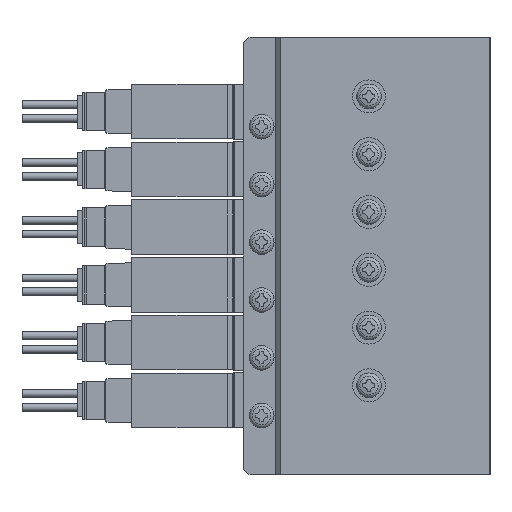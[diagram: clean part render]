
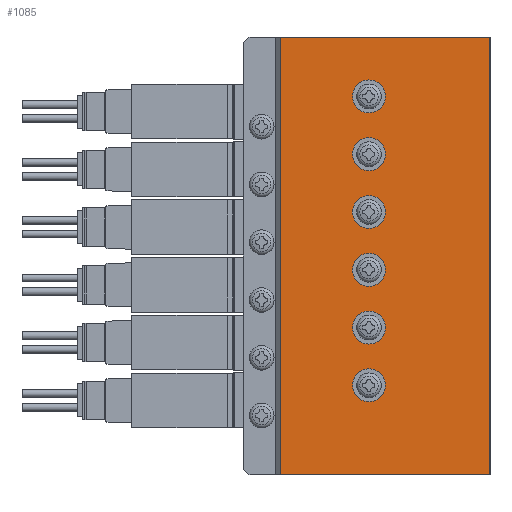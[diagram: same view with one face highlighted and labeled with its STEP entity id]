
A CAD part, left-side view. The second image highlights one B-rep face of the part: STEP entity #1085.
In plain terms, the highlighted planar face has unit normal (-1, 0, 0) as drawn and (1, 0, 0) by its records, which use the part's own axes.
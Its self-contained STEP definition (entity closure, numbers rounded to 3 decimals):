
#1085=ADVANCED_FACE('',(#2491,#2492,#2493,#2494,#2495,#2496,#2497),#2498,.F.);
#2491=FACE_OUTER_BOUND('',#3948,.T.);
#2492=FACE_BOUND('',#3949,.T.);
#2493=FACE_BOUND('',#3950,.T.);
#2494=FACE_BOUND('',#3951,.T.);
#2495=FACE_BOUND('',#3952,.T.);
#2496=FACE_BOUND('',#3953,.T.);
#2497=FACE_BOUND('',#3954,.T.);
#2498=PLANE('',#3955);
#3948=EDGE_LOOP('',(#8481,#8482,#8483,#8484));
#3949=EDGE_LOOP('',(#8485));
#3950=EDGE_LOOP('',(#8486));
#3951=EDGE_LOOP('',(#8487));
#3952=EDGE_LOOP('',(#8488));
#3953=EDGE_LOOP('',(#8489));
#3954=EDGE_LOOP('',(#8490));
#3955=AXIS2_PLACEMENT_3D('',#8491,#8492,#8493);
#8481=ORIENTED_EDGE('',*,*,#9934,.T.);
#8482=ORIENTED_EDGE('',*,*,#10014,.F.);
#8483=ORIENTED_EDGE('',*,*,#9944,.F.);
#8484=ORIENTED_EDGE('',*,*,#9980,.T.);
#8485=ORIENTED_EDGE('',*,*,#9884,.F.);
#8486=ORIENTED_EDGE('',*,*,#9639,.F.);
#8487=ORIENTED_EDGE('',*,*,#10117,.F.);
#8488=ORIENTED_EDGE('',*,*,#10102,.F.);
#8489=ORIENTED_EDGE('',*,*,#10086,.F.);
#8490=ORIENTED_EDGE('',*,*,#10112,.F.);
#8491=CARTESIAN_POINT('',(19.0,0.0,39.75));
#8492=DIRECTION('',(-1.0,0.0,0.0));
#8493=DIRECTION('',(0.0,0.0,1.0));
#9639=EDGE_CURVE('',#11734,#11734,#11735,.T.);
#9884=EDGE_CURVE('',#12177,#12177,#12178,.T.);
#9934=EDGE_CURVE('',#12261,#12259,#12262,.T.);
#9944=EDGE_CURVE('',#12274,#12276,#12277,.T.);
#9980=EDGE_CURVE('',#12274,#12261,#12333,.T.);
#10014=EDGE_CURVE('',#12276,#12259,#12384,.T.);
#10086=EDGE_CURVE('',#12486,#12486,#12487,.T.);
#10102=EDGE_CURVE('',#12509,#12509,#12510,.T.);
#10112=EDGE_CURVE('',#12524,#12524,#12525,.T.);
#10117=EDGE_CURVE('',#12532,#12532,#12533,.T.);
#11734=VERTEX_POINT('',#15389);
#11735=CIRCLE('',#15390,3.0);
#12177=VERTEX_POINT('',#16697);
#12178=CIRCLE('',#16698,3.0);
#12259=VERTEX_POINT('',#16806);
#12261=VERTEX_POINT('',#16809);
#12262=LINE('',#16810,#16811);
#12274=VERTEX_POINT('',#16830);
#12276=VERTEX_POINT('',#16833);
#12277=LINE('',#16834,#16835);
#12333=LINE('',#16913,#16914);
#12384=LINE('',#16978,#16979);
#12486=VERTEX_POINT('',#17173);
#12487=CIRCLE('',#17174,3.0);
#12509=VERTEX_POINT('',#17206);
#12510=CIRCLE('',#17207,3.0);
#12524=VERTEX_POINT('',#17238);
#12525=CIRCLE('',#17239,3.0);
#12532=VERTEX_POINT('',#17259);
#12533=CIRCLE('',#17260,3.0);
#15389=CARTESIAN_POINT('',(19.0,22.0,-32.0));
#15390=AXIS2_PLACEMENT_3D('',#18594,#18595,#18596);
#16697=CARTESIAN_POINT('',(19.0,22.0,20.5));
#16698=AXIS2_PLACEMENT_3D('',#19019,#19020,#19021);
#16806=CARTESIAN_POINT('',(19.0,38.0,-39.75));
#16809=CARTESIAN_POINT('',(19.0,0.0,-39.75));
#16810=CARTESIAN_POINT('',(19.0,0.0,-39.75));
#16811=VECTOR('',#19110,1.0);
#16830=CARTESIAN_POINT('',(19.0,0.0,39.75));
#16833=CARTESIAN_POINT('',(19.0,38.0,39.75));
#16834=CARTESIAN_POINT('',(19.0,0.0,39.75));
#16835=VECTOR('',#19122,1.0);
#16913=CARTESIAN_POINT('',(19.0,0.0,39.75));
#16914=VECTOR('',#19181,1.0);
#16978=CARTESIAN_POINT('',(19.0,38.0,39.75));
#16979=VECTOR('',#19249,1.0);
#17173=CARTESIAN_POINT('',(19.0,22.0,-0.5));
#17174=AXIS2_PLACEMENT_3D('',#19360,#19361,#19362);
#17206=CARTESIAN_POINT('',(19.0,22.0,-11.0));
#17207=AXIS2_PLACEMENT_3D('',#19385,#19386,#19387);
#17238=CARTESIAN_POINT('',(19.0,22.0,10.0));
#17239=AXIS2_PLACEMENT_3D('',#19402,#19403,#19404);
#17259=CARTESIAN_POINT('',(19.0,22.0,-21.5));
#17260=AXIS2_PLACEMENT_3D('',#19412,#19413,#19414);
#18594=CARTESIAN_POINT('',(19.0,22.0,-29.0));
#18595=DIRECTION('',(1.0,0.0,0.0));
#18596=DIRECTION('',(0.0,0.0,-1.0));
#19019=CARTESIAN_POINT('',(19.0,22.0,23.5));
#19020=DIRECTION('',(1.0,0.0,0.0));
#19021=DIRECTION('',(0.0,0.0,-1.0));
#19110=DIRECTION('',(0.0,1.0,0.0));
#19122=DIRECTION('',(0.0,1.0,0.0));
#19181=DIRECTION('',(0.0,0.0,-1.0));
#19249=DIRECTION('',(0.0,0.0,-1.0));
#19360=CARTESIAN_POINT('',(19.0,22.0,2.5));
#19361=DIRECTION('',(1.0,0.0,0.0));
#19362=DIRECTION('',(0.0,0.0,-1.0));
#19385=CARTESIAN_POINT('',(19.0,22.0,-8.0));
#19386=DIRECTION('',(1.0,0.0,0.0));
#19387=DIRECTION('',(0.0,0.0,-1.0));
#19402=CARTESIAN_POINT('',(19.0,22.0,13.0));
#19403=DIRECTION('',(1.0,0.0,0.0));
#19404=DIRECTION('',(0.0,0.0,-1.0));
#19412=CARTESIAN_POINT('',(19.0,22.0,-18.5));
#19413=DIRECTION('',(1.0,0.0,0.0));
#19414=DIRECTION('',(0.0,0.0,-1.0));
